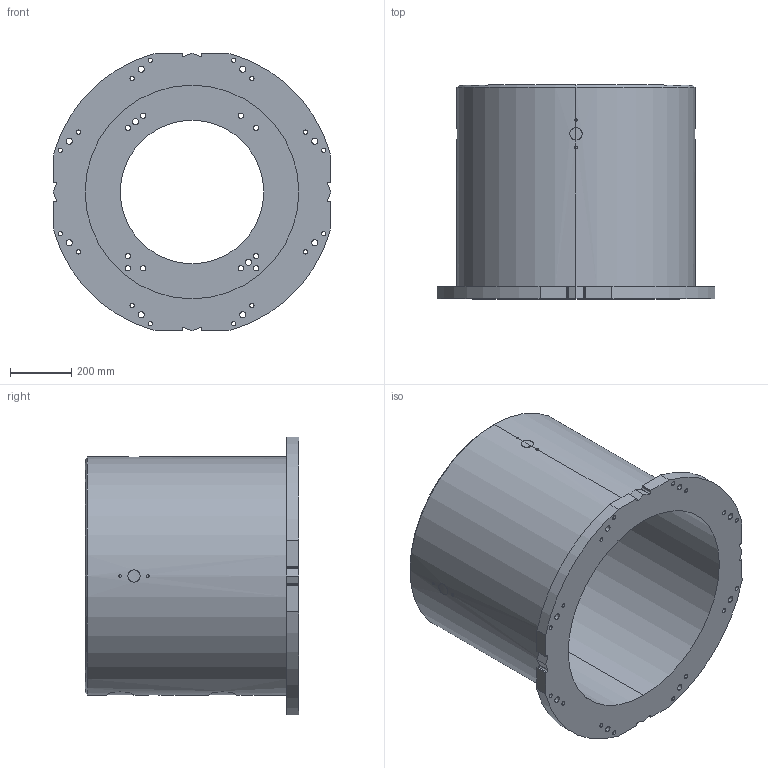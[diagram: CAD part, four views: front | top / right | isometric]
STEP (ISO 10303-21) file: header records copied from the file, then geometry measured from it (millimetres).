
FILE_DESCRIPTION (( 'STEP AP214' ), '1' );
FILE_NAME ('P-700.STEP', '2025-12-10T13:33:40', ( '' ), ( '' ), 'SwSTEP 2.0', 'SolidWorks 2022', '' );
FILE_SCHEMA (( 'AUTOMOTIVE_DESIGN' ));
Length unit declared in the file: millimetre
Products named in the file (1): P-700
Bounding box: 910 x 700 x 910 mm (x, y, z)
Volume: 80705738.2 mm3; surface area: 4318680.9 mm2
Topology: 1 solids, 1 shells, 203 faces, 565 edges, 376 vertices
Faces by surface type: cylinder 149, plane 28, bspline 24, cone 2
Entity records: 12485 total; most frequent: CARTESIAN_POINT 6354, ORIENTED_EDGE 1130, DIRECTION 969, EDGE_CURVE 565, AXIS2_PLACEMENT_3D 378, VERTEX_POINT 376, EDGE_LOOP 289, LINE 213
